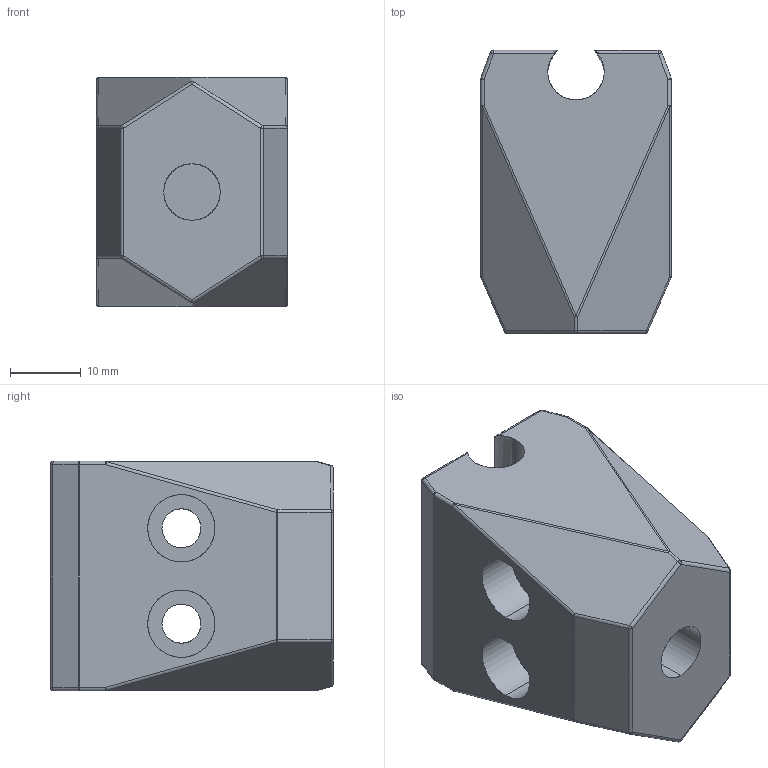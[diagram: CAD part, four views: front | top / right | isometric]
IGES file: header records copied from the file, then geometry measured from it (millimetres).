
Start section: SolidWorks IGES file using analytic representation for surfaces
Global section: file name: C:\Documents and Settings\ARGE\Desktop\yeni katalog tolgay düzenli\B kataloðu\dar sirtli mengene milsiz\export\210 DTY 008.IGS; native system: SolidWorks 2006 by SolidWorks Corporation; preprocessor: SolidWorks 2006 by SolidWorks Corporation; author: ARGE2; date: 060911.120315; units: millimetre
Bounding box: 27 x 40 x 32.5 mm (x, y, z)
Surface area: 7794.5 mm2 (no closed solid volume)
Topology: 0 solids, 0 shells, 117 faces, 1022 edges, 1008 vertices
Faces by surface type: revolution 77, bspline 40
